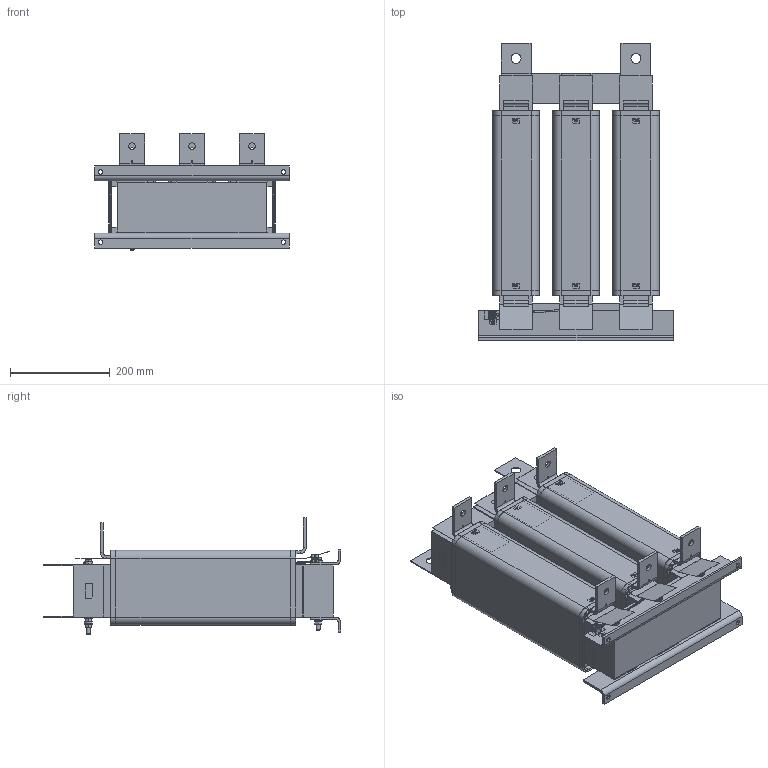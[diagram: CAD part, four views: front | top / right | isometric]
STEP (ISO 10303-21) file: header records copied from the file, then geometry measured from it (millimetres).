
FILE_DESCRIPTION(/* description */ ('raw material description'),/* implementation_level */ '2;1');
FILE_NAME(/* name */ 'C:\Users\Erika.Jenzer\Desktop\Neuer Ordner\FN5060HV-900-99.stp',/* time_stamp */ '2019-11-18T15:40:13+01:00',/* author */ ('erika.jenzer'),/* organization */ ('Schaffner EMV AG'),/* preprocessor_version */ 'ST-DEVELOPER v16.5',/* originating_system */ 'Autodesk Inventor 2017',/* authorisation */ '');
FILE_SCHEMA (('AUTOMOTIVE_DESIGN { 1 0 10303 214 3 1 1 }'));
Products named in the file (1): FN5060HV-900-99
Bounding box: 390 x 594.82 x 233.35 mm (x, y, z)
Volume: 16315052.7 mm3; surface area: 2111889.6 mm2
Topology: 40 solids, 50 shells, 1890 faces, 4933 edges, 3217 vertices
Faces by surface type: plane 1265, cylinder 399, cone 134, bspline 73, torus 18, sphere 1
Full cylindrical faces by diameter (mm): 0.01 x3, 1 x2, 2 x2, 2.5 x1, 2.8 x11, 3 x2, 3.4 x4, 7.78 x3, 8 x12, 8.2 x6, 8.4 x13, 9 x4, 9.9 x5, 10.5 x3, 11 x10, 11.4 x3, 13 x1, 13.5 x6, 16 x11, 18 x5, 20 x4
Entity records: 61814 total; most frequent: CARTESIAN_POINT 14555, ORIENTED_EDGE 9406, DIRECTION 9011, EDGE_CURVE 4696, LINE 3331, VECTOR 3331, VERTEX_POINT 3155, AXIS2_PLACEMENT_3D 2840
